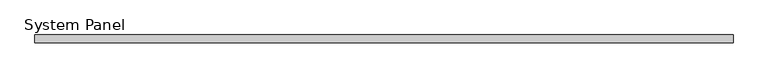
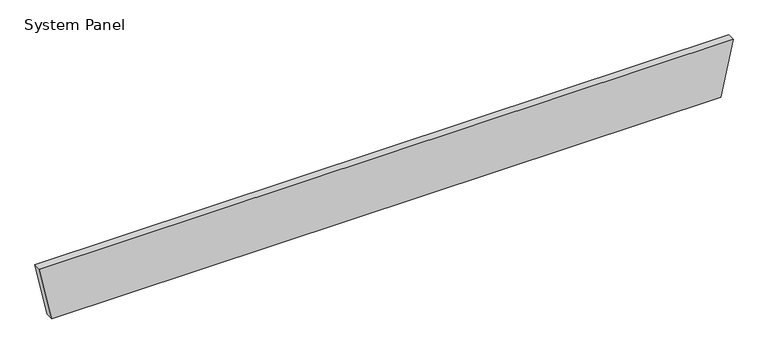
"""IFC4 building model written with IfcOpenShell, lengths in millimetres: plate geometry, System Panel : MetecnoPanel_150mm_Plain_Surfmist."""

from ifc_helpers import new_model, si_unit, frame, origin, place, context, project, spatial, polyline, outline, extrude, source, transform, mapped, element, save


def system_panel_c4111855(model_context):
    return source(origin(), model_context, "Body", "SweptSolid", [
        extrude(outline(polyline([(0.0, -6478.2647134), (0.0, 6478.2647134), (1100.0, 6717.3970701), (1100.0, -6717.3970701), (0.0, -6478.2647134)])), frame((0.0, -150.0, 0.0), z_axis=(0.0, 1.0, 0.0), x_axis=(0.0, 0.0, 1.0)), (0.0, 0.0, 1.0), 150.0),
    ])


if __name__ == "__main__":
    model = new_model("IFC4")
    model_context = context("Model", 3, world=origin())
    ifc_project = project(units=[si_unit("LENGTHUNIT", "METRE", prefix="MILLI")], contexts=[model_context])
    site = spatial("IfcSite", under=ifc_project)
    building = spatial("IfcBuilding", under=site)
    placement = place(None, origin())
    system_panel_shape = system_panel_c4111855(model_context)
    element("IfcPlate", 1, ObjectType="System Panel : MetecnoPanel_150mm_Plain_Surfmist", at=placement, inside=building, context=model_context, shape_type="MappedRepresentation", body=[
        mapped(system_panel_shape, transform((0.0, 0.0, 0.0), x_axis=(1.0, 0.0, 0.0), y_axis=(0.0, 1.0, 0.0), z_axis=(0.0, 0.0, 1.0))),
    ])
    save(model, "model.ifc")
